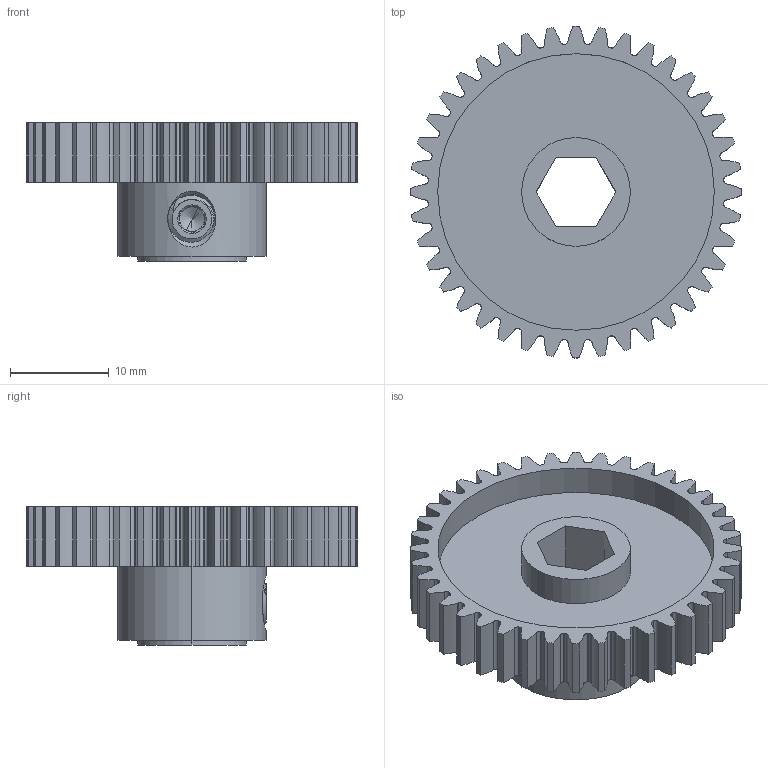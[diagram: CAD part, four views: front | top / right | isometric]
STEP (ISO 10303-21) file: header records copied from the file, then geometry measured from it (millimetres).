
FILE_DESCRIPTION (( 'STEP AP203' ), '1' );
FILE_NAME ('2303-4008-0040 assembly.STEP', '2023-10-10T14:14:22', ( '' ), ( '' ), 'SwSTEP 2.0', 'SolidWorks 2016', '' );
FILE_SCHEMA (( 'CONFIG_CONTROL_DESIGN' ));
Length unit declared in the file: millimetre
Products named in the file (3): 2303-4008-0040_Gear Blank; 2806-0005-0004_91390A117; 2303-4008-0040 assembly
Assembly tree (3 placements, depth 2):
  2303-4008-0040 assembly
    2303-4008-0040_Gear Blank
    2806-0005-0004_91390A117  x2
Bounding box: 33.6 x 33.6 x 14 mm (x, y, z)
Volume: 3976.4 mm3; surface area: 4125.2 mm2
Topology: 3 solids, 3 shells, 483 faces, 1379 edges, 900 vertices
Faces by surface type: bspline 176, cylinder 149, plane 120, cone 38
Entity records: 25039 total; most frequent: CARTESIAN_POINT 14467, ORIENTED_EDGE 2562, DIRECTION 1545, EDGE_CURVE 1281, VERTEX_POINT 847, LINE 585, VECTOR 585, AXIS2_PLACEMENT_3D 480
